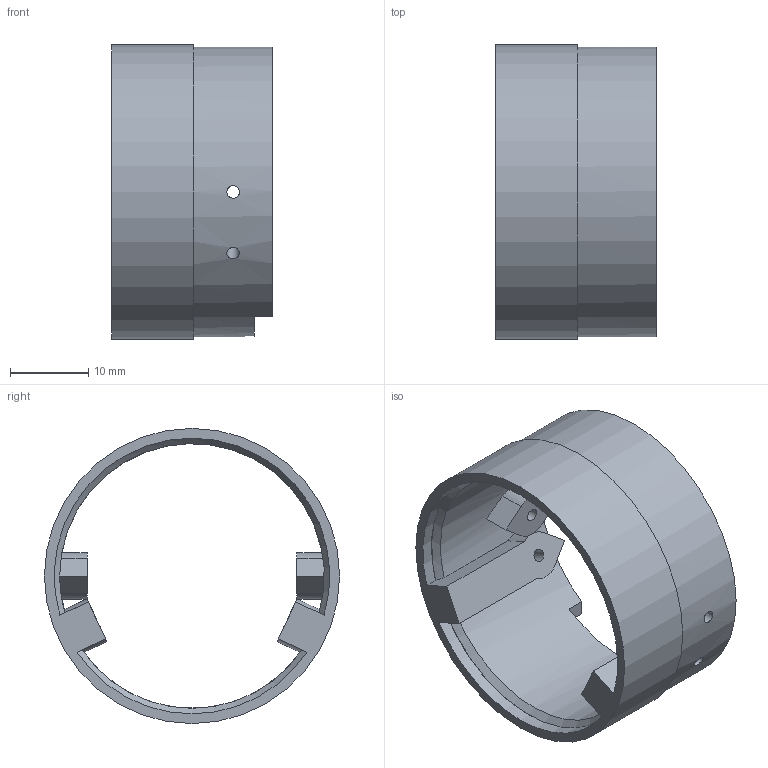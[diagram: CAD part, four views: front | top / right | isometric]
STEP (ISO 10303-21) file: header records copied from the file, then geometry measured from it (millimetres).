
FILE_DESCRIPTION(('SkyG Speed 90B - revision C6B-5 - 2026-10-08','TC-tail-coupler'),'2;1');
FILE_NAME('TC-tail-coupler_C6B-5','2026-10-08T10:12:28',('Author'),( 'Open CASCADE'),'Open CASCADE STEP processor 7.9','Open CASCADE 7.9' ,'Unknown');
FILE_SCHEMA(('AUTOMOTIVE_DESIGN { 1 0 10303 214 1 1 1 1 }'));
Length unit declared in the file: millimetre
Products named in the file (1): TC-tail-coupler C6B-5
Bounding box: 20.5 x 37.7 x 37.7 mm (x, y, z)
Volume: 4733 mm3; surface area: 5474.3 mm2
Topology: 1 solids, 1 shells, 47 faces, 142 edges, 93 vertices
Faces by surface type: plane 28, cylinder 17, cone 2
Full cylindrical faces by diameter (mm): 1.6 x4, 33.8 x1, 37 x1, 37.7 x1
Entity records: 4396 total; most frequent: CARTESIAN_POINT 1739, DIRECTION 445, ORIENTED_EDGE 284, PCURVE 284, DEFINITIONAL_REPRESENTATION 284, LINE 205, VECTOR 205, EDGE_CURVE 142
